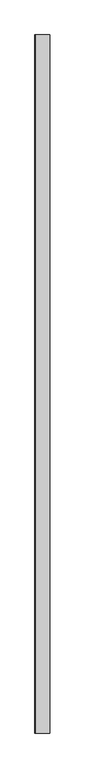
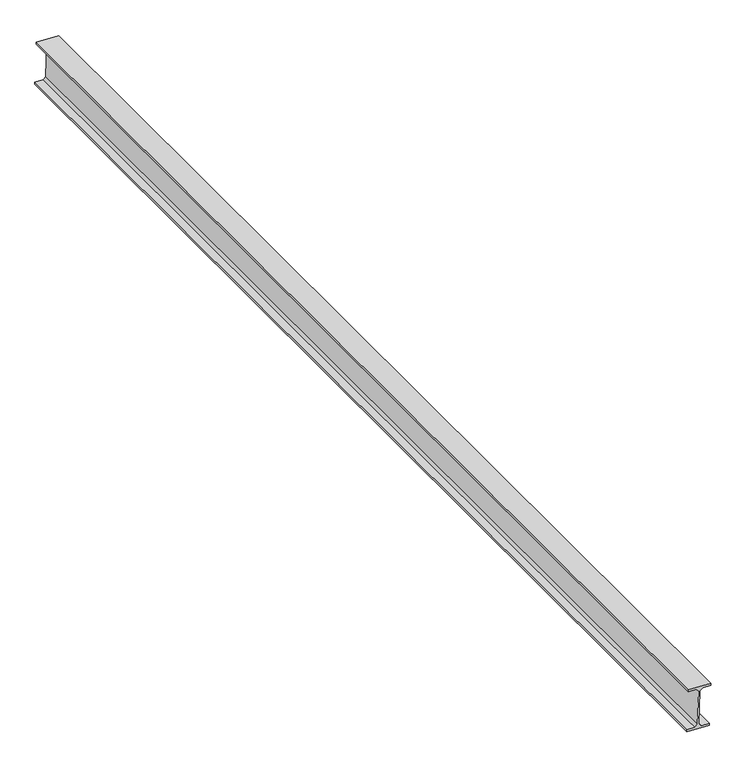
"""IFC4 building model written with IfcOpenShell, lengths in millimetres: beam geometry, Panne 4795 : Panne 4795."""

import ifcopenshell
import ifcopenshell.guid

model = None  # the IFC model being written
_history = None  # IfcOwnerHistory: only IFC2X3 demands one
_inside = {}  # id of a spatial element -> (the spatial element, [elements in it])
_under = {}  # id of a project, library or spatial element -> (it, [spatial elements below it])
_declared = {}  # id of a project -> (the project, [libraries it declares])
_typed = {}  # id of a type object -> (the type object, [elements of that type])
_made_of = {}  # id of a material, layer set ... -> (it, [elements and type objects made of it])


def new_model(schema):
    """Start an empty IFC model of exactly this schema.

    Asked for "IFC4X3", IfcOpenShell would pick the latest addendum, in which some entities
    have other attributes; the version numbers below select the first issue.
    IFC2X3 requires an IfcOwnerHistory on every rooted entity: one is made here for all.
    """
    global model, _history
    if schema == "IFC4X3":
        model = ifcopenshell.file(schema_version=(4, 3, 0, 0))
    else:
        model = ifcopenshell.file(schema=schema)
    _inside.clear()
    _under.clear()
    _declared.clear()
    _typed.clear()
    _made_of.clear()
    _history = None
    if model.schema == "IFC2X3":
        org = make("IfcOrganization", Name="unknown")
        user = make(
            "IfcPersonAndOrganization",
            ThePerson=make("IfcPerson", FamilyName="unknown"),
            TheOrganization=org,
        )
        app = make(
            "IfcApplication",
            ApplicationDeveloper=org,
            Version="unknown",
            ApplicationFullName="unknown",
            ApplicationIdentifier="unknown",
        )
        _history = make(
            "IfcOwnerHistory",
            OwningUser=user,
            OwningApplication=app,
            ChangeAction="ADDED",
            CreationDate=0,
        )
    return model


def make(cls, **values):
    """One entity of the class cls with the attributes given. An attribute that is None is left unset."""
    return model.create_entity(
        cls, **{name: value for name, value in values.items() if value is not None}
    )


def rooted(cls, **values):
    """An entity with a GlobalId (a new one), such as an element, a storey or a relation."""
    return make(cls, GlobalId=ifcopenshell.guid.new(), OwnerHistory=_history, **values)


def si_unit(unit_type, name, prefix=None):
    """IfcSIUnit, for example si_unit("LENGTHUNIT", "METRE", prefix="MILLI")."""
    return make("IfcSIUnit", UnitType=unit_type, Prefix=prefix, Name=name)


def assignment(units):
    """IfcUnitAssignment: the units of a project."""
    return None if units is None else make("IfcUnitAssignment", Units=units)


def point(xyz):
    """IfcCartesianPoint."""
    return None if xyz is None else make("IfcCartesianPoint", Coordinates=xyz)


def direction(xyz):
    """IfcDirection."""
    return None if xyz is None else make("IfcDirection", DirectionRatios=xyz)


def frame(location, z_axis=None, x_axis=None):
    """IfcAxis2Placement3D, a coordinate frame: its origin and axes. An axis left out is left unset."""
    return make(
        "IfcAxis2Placement3D",
        Location=point(location),
        Axis=direction(z_axis),
        RefDirection=direction(x_axis),
    )


def origin():
    """The frame at (0, 0, 0) with its axes left unset."""
    return frame((0.0, 0.0, 0.0))


def place(relative_to, where):
    """IfcLocalPlacement: puts the frame where relative to a parent placement (None: the world)."""
    return make(
        "IfcLocalPlacement", PlacementRelTo=relative_to, RelativePlacement=where
    )


def context(
    kind, dimensions, precision=None, world=None, true_north=None, identifier=None
):
    """IfcGeometricRepresentationContext, for example the 3D "Model" context."""
    return make(
        "IfcGeometricRepresentationContext",
        ContextIdentifier=identifier,
        ContextType=kind,
        CoordinateSpaceDimension=dimensions,
        Precision=precision,
        WorldCoordinateSystem=world,
        TrueNorth=true_north,
    )


def project(units=None, contexts=None):
    """IfcProject with its units and contexts."""
    return rooted(
        "IfcProject",
        Name="project",
        RepresentationContexts=contexts,
        UnitsInContext=assignment(units),
    )


def spatial(cls, under=None, at=None, **own):
    """A site, building, storey or space (cls), placed at a placement, below another one or the project."""
    s = rooted(cls, ObjectPlacement=at, **own)
    if under is not None:
        _under.setdefault(under.id(), (under, []))[1].append(s)
    return s


def polyline(points):
    """IfcPolyline through the points."""
    return make("IfcPolyline", Points=[point(p) for p in points])


def outline(outer, holes=None, kind="AREA"):
    """IfcArbitraryClosedProfileDef: a profile drawn as a closed curve; with holes, ...WithVoids."""
    if holes is None:
        return make("IfcArbitraryClosedProfileDef", ProfileType=kind, OuterCurve=outer)
    return make(
        "IfcArbitraryProfileDefWithVoids",
        ProfileType=kind,
        OuterCurve=outer,
        InnerCurves=holes,
    )


def extrude(swept, where, along, depth):
    """IfcExtrudedAreaSolid: the profile swept, set in the frame where, extruded along a direction by depth."""
    return make(
        "IfcExtrudedAreaSolid",
        SweptArea=swept,
        Position=where,
        ExtrudedDirection=direction(along),
        Depth=depth,
    )


def shape(context_of_items, identifier, shape_type, items):
    """IfcShapeRepresentation: the items that make up one representation, for example the "Body"."""
    return make(
        "IfcShapeRepresentation",
        ContextOfItems=context_of_items,
        RepresentationIdentifier=identifier,
        RepresentationType=shape_type,
        Items=items,
    )


def source(mapping_origin, context_of_items, identifier, shape_type, items):
    """IfcRepresentationMap: a shape defined once, which mapped items show again and again."""
    return make(
        "IfcRepresentationMap",
        MappingOrigin=mapping_origin,
        MappedRepresentation=shape(context_of_items, identifier, shape_type, items),
    )


def transform(
    local_origin,
    x_axis=None,
    y_axis=None,
    z_axis=None,
    scale=None,
    scale2=None,
    scale3=None,
    uniform=True,
):
    """IfcCartesianTransformationOperator3D, or its non-uniform kind. x_axis, y_axis, z_axis: its Axis1, 2, 3."""
    if uniform:
        return make(
            "IfcCartesianTransformationOperator3D",
            Axis1=direction(x_axis),
            Axis2=direction(y_axis),
            LocalOrigin=point(local_origin),
            Scale=scale,
            Axis3=direction(z_axis),
        )
    return make(
        "IfcCartesianTransformationOperator3DnonUniform",
        Axis1=direction(x_axis),
        Axis2=direction(y_axis),
        LocalOrigin=point(local_origin),
        Scale=scale,
        Axis3=direction(z_axis),
        Scale2=scale2,
        Scale3=scale3,
    )


def mapped(mapping_source, mapping_target):
    """IfcMappedItem: shows the shape of a source again, moved by a transform."""
    return make(
        "IfcMappedItem", MappingSource=mapping_source, MappingTarget=mapping_target
    )


def made_of(thing, what):
    """Note that an element or type object is made of a material, layer set ...; save() writes the relation."""
    if what is not None:
        _made_of.setdefault(what.id(), (what, []))[1].append(thing)
    return thing


def element(
    cls,
    number,
    at=None,
    inside=None,
    cuts=None,
    type_object=None,
    material=None,
    context=None,
    identifier="Body",
    shape_type=None,
    held_by="IfcProductDefinitionShape",
    body=None,
    shapes=None,
    **own,
):
    """One element of the class cls, such as IfcWall. Its Tag is "e" and its number.

    at: its placement. inside: the storey or other place that contains it. cuts: it is an
    opening in that element (IfcRelVoidsElement). A single representation is given by context,
    identifier, shape_type and body (its items); several are given by shapes. held_by: the class
    of the entity that holds the representations. save() writes the other relations.
    """
    e = rooted(cls, Tag="e%d" % number, ObjectPlacement=at, **own)
    if body is not None:
        shapes = [shape(context, identifier, shape_type, body)]
    if shapes is not None:
        e.Representation = make(held_by, Representations=shapes)
    if inside is not None:
        _inside.setdefault(inside.id(), (inside, []))[1].append(e)
    if cuts is not None:
        rooted(
            "IfcRelVoidsElement", RelatingBuildingElement=cuts, RelatedOpeningElement=e
        )
    if type_object is not None:
        _typed.setdefault(type_object.id(), (type_object, []))[1].append(e)
    return made_of(e, material)


def aggregate(whole, parts):
    """IfcRelAggregates: a whole, such as a stair, and the parts it consists of."""
    return rooted("IfcRelAggregates", RelatingObject=whole, RelatedObjects=parts)


def save(model, path):
    """Write the relations noted so far, then the file.

    IfcRelAggregates (storeys below a building ...), IfcRelContainedInSpatialStructure (elements
    in a storey), IfcRelDefinesByType, IfcRelAssociatesMaterial and IfcRelDeclares: one each for
    every whole, place, type object, material and project.
    """
    for whole, parts in _under.values():
        aggregate(whole, parts)
    for where, things in _inside.values():
        rooted(
            "IfcRelContainedInSpatialStructure",
            RelatedElements=things,
            RelatingStructure=where,
        )
    for kind, things in _typed.values():
        rooted("IfcRelDefinesByType", RelatedObjects=things, RelatingType=kind)
    for what, things in _made_of.values():
        rooted("IfcRelAssociatesMaterial", RelatedObjects=things, RelatingMaterial=what)
    for by, libraries in _declared.values():
        rooted("IfcRelDeclares", RelatingContext=by, RelatedDefinitions=libraries)
    model.write(path)


def beam_3557160a(model_context):
    return source(origin(), model_context, "Body", "SweptSolid", [
        extrude(outline(polyline([(7609.0570319, 7558.4285162), (7606.1887882, 7640.3783373), (7613.5842599, 7640.6371788), (7614.616128, 7611.1552309), (7623.9254278, 7602.4755456), (7751.0475893, 7606.9248213), (7759.7272747, 7616.2341211), (7758.6954065, 7645.7160689), (7766.0908781, 7645.9749104), (7768.9591219, 7564.0250893), (7761.5636502, 7563.7662478), (7760.531782, 7593.2481956), (7751.2224822, 7601.927881), (7624.1003207, 7597.4786053), (7615.4206354, 7588.1693055), (7616.4525036, 7558.6873577), (7609.0570319, 7558.4285162)])), frame((0.0, -8510.0, 0.0), z_axis=(0.0, 1.0, 0.0), x_axis=(0.0, 0.0, 1.0)), (0.0, 0.0, 1.0), 4120.0),
    ])


if __name__ == "__main__":
    model = new_model("IFC4")
    model_context = context("Model", 3, world=origin())
    ifc_project = project(units=[si_unit("LENGTHUNIT", "METRE", prefix="MILLI")], contexts=[model_context])
    site = spatial("IfcSite", under=ifc_project)
    building = spatial("IfcBuilding", under=site)
    placement = place(None, origin())
    beam_shape = beam_3557160a(model_context)
    element("IfcBeam", 1, ObjectType="Panne 4795 : Panne 4795", at=placement, inside=building, context=model_context, shape_type="MappedRepresentation", body=[
        mapped(beam_shape, transform((0.0, 0.0, 0.0), x_axis=(1.0, 0.0, 0.0), y_axis=(0.0, 1.0, 0.0), z_axis=(0.0, 0.0, 1.0))),
    ])
    save(model, "model.ifc")
